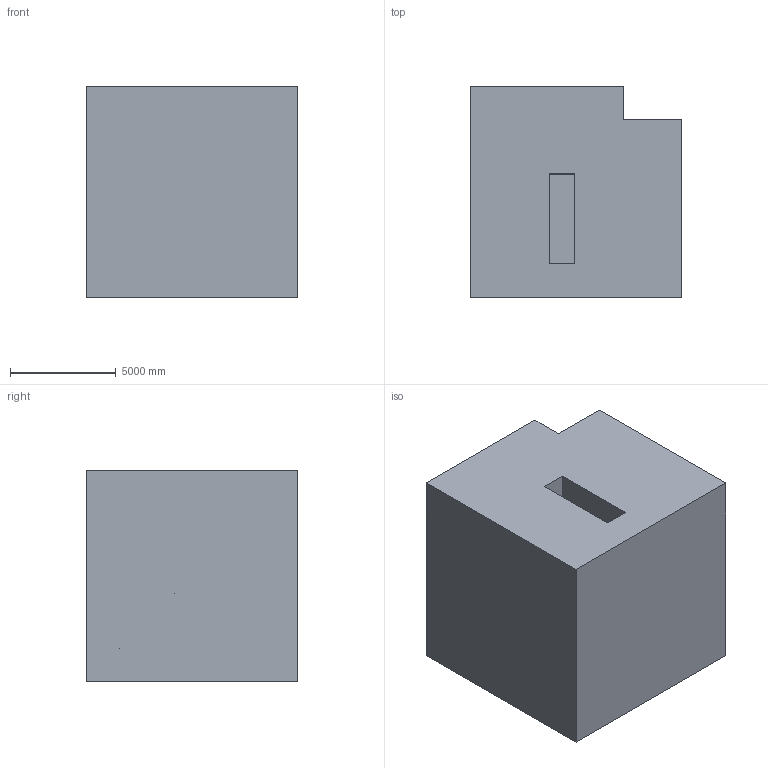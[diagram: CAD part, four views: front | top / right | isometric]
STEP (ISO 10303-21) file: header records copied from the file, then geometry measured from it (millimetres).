
FILE_DESCRIPTION (( 'STEP AP203' ), '1' );
FILE_NAME ('135.STEP', '2022-07-28T13:42:19', ( 'user' ), ( '' ), 'SwSTEP 2.0', 'SolidWorks 2021', '' );
FILE_SCHEMA (( 'CONFIG_CONTROL_DESIGN' ));
Length unit declared in the file: centimetre
Products named in the file (1): 135
Bounding box: 10000 x 10000 x 10000 mm (x, y, z)
Volume: 921486264223.4 mm3; surface area: 667220831.7 mm2
Topology: 1 solids, 1 shells, 13 faces, 30 edges, 20 vertices
Faces by surface type: plane 13
Entity records: 441 total; most frequent: CARTESIAN_POINT 64, ORIENTED_EDGE 60, DIRECTION 58, EDGE_CURVE 30, VECTOR 30, LINE 30, VERTEX_POINT 20, EDGE_LOOP 14
